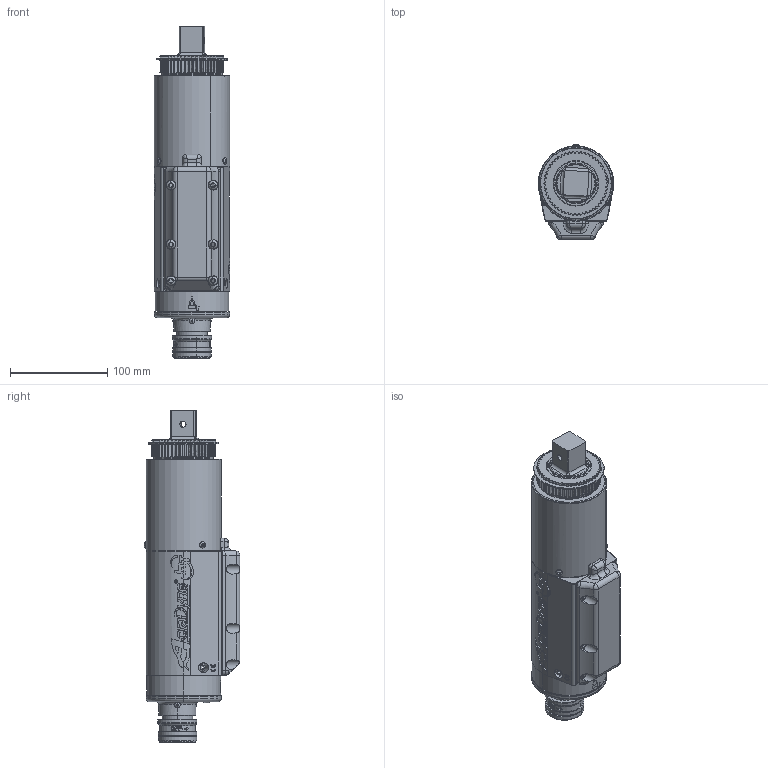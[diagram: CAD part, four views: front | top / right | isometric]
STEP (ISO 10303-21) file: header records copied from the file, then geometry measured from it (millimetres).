
FILE_DESCRIPTION (( 'STEP AP214' ), '1' );
FILE_NAME ('AEF4A771200B.STEP', '2016-04-05T18:00:57', ( 'AIMCO' ), ( '' ), 'SwSTEP 2.0', 'SolidWorks 2016', '' );
FILE_SCHEMA (( 'AUTOMOTIVE_DESIGN' ));
Length unit declared in the file: inch
Products named in the file (1): AEF4A771200B
Bounding box: 77.47 x 98.5 x 342.25 mm (x, y, z)
Surface area: 151073.4 mm2 (no closed solid volume)
Topology: 0 solids, 72 shells, 1136 faces, 4403 edges, 3151 vertices
Faces by surface type: cylinder 380, plane 358, bspline 162, torus 125, cone 99, sphere 12
Entity records: 114198 total; most frequent: CARTESIAN_POINT 66237, ORIENTED_EDGE 6896, DIRECTION 5969, EDGE_CURVE 4397, VERTEX_POINT 3151, AXIS2_PLACEMENT_3D 2149, LINE 1671, VECTOR 1671
